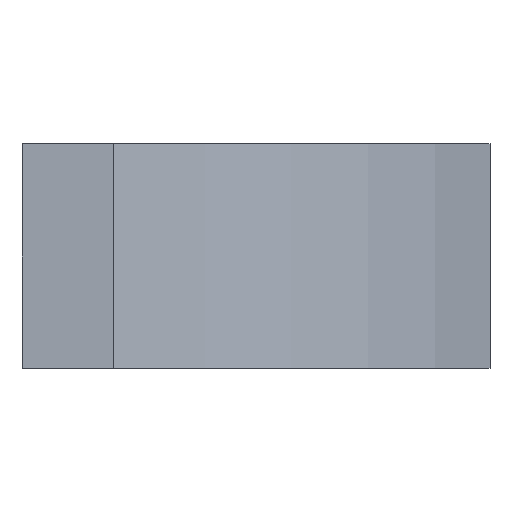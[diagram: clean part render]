
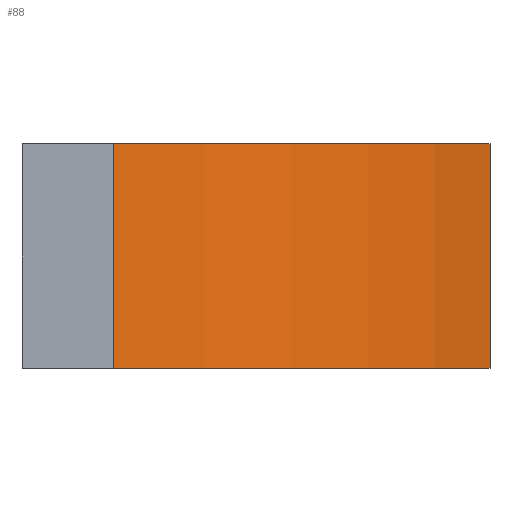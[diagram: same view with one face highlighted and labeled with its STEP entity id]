
A CAD part, left-side view. The second image highlights one B-rep face of the part: STEP entity #88.
In plain terms, the highlighted cylindrical face has radius 35.56 mm (diameter 71.12 mm), a partial arc.
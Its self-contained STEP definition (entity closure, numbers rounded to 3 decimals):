
#88 = ADVANCED_FACE ( 'NONE', ( #142 ), #149, .T. ) ;
#142 = FACE_OUTER_BOUND ( 'NONE', #399, .T. ) ;
#149 = CYLINDRICAL_SURFACE ( 'NONE', #225, 35.56 ) ;
#225 = AXIS2_PLACEMENT_3D ( 'NONE', #1031, #355, #999 ) ;
#244 = VERTEX_POINT ( 'NONE', #1306 ) ;
#315 = CARTESIAN_POINT ( 'NONE',  ( 0., 0., -20.05 ) ) ;
#316 = CARTESIAN_POINT ( 'NONE',  ( 0., 0., -5.35 ) ) ;
#338 = ORIENTED_EDGE ( 'NONE', *, *, #925, .T. ) ;
#341 = CARTESIAN_POINT ( 'NONE',  ( -35.05, -6., -20.05 ) ) ;
#355 = DIRECTION ( 'NONE',  ( 0., 0., -1. ) ) ;
#399 = EDGE_LOOP ( 'NONE', ( #913, #493, #338, #935 ) ) ;
#480 = CIRCLE ( 'NONE', #543, 35.56 ) ;
#493 = ORIENTED_EDGE ( 'NONE', *, *, #1002, .F. ) ;
#515 = EDGE_CURVE ( 'NONE', #1092, #1149, #480, .T. ) ;
#520 = CARTESIAN_POINT ( 'NONE',  ( -35.05, -6., -6.35 ) ) ;
#543 = AXIS2_PLACEMENT_3D ( 'NONE', #316, #933, #1042 ) ;
#554 = EDGE_CURVE ( 'NONE', #1149, #626, #830, .T. ) ;
#568 = AXIS2_PLACEMENT_3D ( 'NONE', #315, #646, #1377 ) ;
#626 = VERTEX_POINT ( 'NONE', #341 ) ;
#646 = DIRECTION ( 'NONE',  ( 0., 0., -1. ) ) ;
#662 = VECTOR ( 'NONE', #1041, 1000. ) ;
#669 = CARTESIAN_POINT ( 'NONE',  ( -35.05, -6., -5.35 ) ) ;
#723 = CARTESIAN_POINT ( 'NONE',  ( -17.942, -30.702, -6.35 ) ) ;
#830 = LINE ( 'NONE', #520, #1253 ) ;
#844 = CARTESIAN_POINT ( 'NONE',  ( -17.942, -30.702, -5.35 ) ) ;
#913 = ORIENTED_EDGE ( 'NONE', *, *, #554, .T. ) ;
#925 = EDGE_CURVE ( 'NONE', #244, #1092, #1355, .T. ) ;
#933 = DIRECTION ( 'NONE',  ( 0., 0., -1. ) ) ;
#935 = ORIENTED_EDGE ( 'NONE', *, *, #515, .T. ) ;
#938 = DIRECTION ( 'NONE',  ( 0., 0., -1. ) ) ;
#999 = DIRECTION ( 'NONE',  ( -1., 0., 0. ) ) ;
#1002 = EDGE_CURVE ( 'NONE', #244, #626, #1364, .T. ) ;
#1031 = CARTESIAN_POINT ( 'NONE',  ( 0., 0., -6.35 ) ) ;
#1041 = DIRECTION ( 'NONE',  ( 0., 0., 1. ) ) ;
#1042 = DIRECTION ( 'NONE',  ( -1., 0., 0. ) ) ;
#1092 = VERTEX_POINT ( 'NONE', #844 ) ;
#1149 = VERTEX_POINT ( 'NONE', #669 ) ;
#1253 = VECTOR ( 'NONE', #938, 1000. ) ;
#1306 = CARTESIAN_POINT ( 'NONE',  ( -17.942, -30.702, -20.05 ) ) ;
#1355 = LINE ( 'NONE', #723, #662 ) ;
#1364 = CIRCLE ( 'NONE', #568, 35.56 ) ;
#1377 = DIRECTION ( 'NONE',  ( -1., 0., 0. ) ) ;
